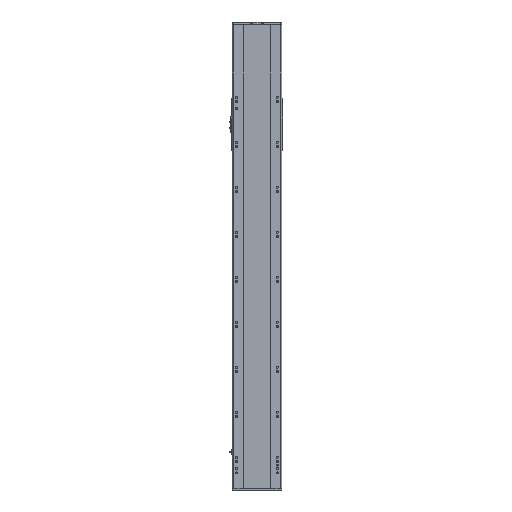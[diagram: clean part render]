
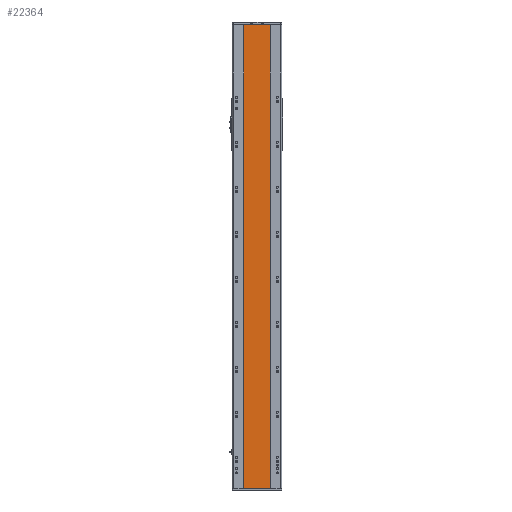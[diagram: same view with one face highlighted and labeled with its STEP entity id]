
A CAD part, front view. The second image highlights one B-rep face of the part: STEP entity #22364.
In plain terms, the highlighted planar face has unit normal (0, -1, 0).
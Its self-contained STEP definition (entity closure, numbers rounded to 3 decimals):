
#713 = VECTOR ( 'NONE', #10466, 1000. ) ;
#1057 = VECTOR ( 'NONE', #2856, 1000. ) ;
#1539 = PLANE ( 'NONE',  #30347 ) ;
#2856 = DIRECTION ( 'NONE',  ( 1., 0., 0. ) ) ;
#3855 = VERTEX_POINT ( 'NONE', #32789 ) ;
#5178 = DIRECTION ( 'NONE',  ( -1., 0., 0. ) ) ;
#6213 = EDGE_CURVE ( 'NONE', #32578, #3855, #26624, .T. ) ;
#7823 = CARTESIAN_POINT ( 'NONE',  ( -59., 1., 1030.5 ) ) ;
#8097 = CARTESIAN_POINT ( 'NONE',  ( -59., 1., -1030.5 ) ) ;
#10301 = EDGE_CURVE ( 'NONE', #3855, #25581, #25520, .T. ) ;
#10320 = LINE ( 'NONE', #12842, #1057 ) ;
#10466 = DIRECTION ( 'NONE',  ( 1., 0., 0. ) ) ;
#11660 = DIRECTION ( 'NONE',  ( 0., 0., -1. ) ) ;
#12842 = CARTESIAN_POINT ( 'NONE',  ( -59., 1., -1030.5 ) ) ;
#13739 = VERTEX_POINT ( 'NONE', #8097 ) ;
#15208 = LINE ( 'NONE', #21980, #29822 ) ;
#17055 = CARTESIAN_POINT ( 'NONE',  ( 59., 1., -1030.5 ) ) ;
#17202 = VECTOR ( 'NONE', #33644, 1000. ) ;
#20255 = EDGE_LOOP ( 'NONE', ( #28084, #40563, #22959, #39485 ) ) ;
#20627 = EDGE_CURVE ( 'NONE', #13739, #25581, #10320, .T. ) ;
#20688 = DIRECTION ( 'NONE',  ( 0., 1., 0. ) ) ;
#21980 = CARTESIAN_POINT ( 'NONE',  ( -59., 1., 1030.5 ) ) ;
#22364 = ADVANCED_FACE ( 'NONE', ( #22529 ), #1539, .F. ) ;
#22529 = FACE_OUTER_BOUND ( 'NONE', #20255, .T. ) ;
#22959 = ORIENTED_EDGE ( 'NONE', *, *, #6213, .F. ) ;
#25188 = CARTESIAN_POINT ( 'NONE',  ( -59., 1., 1030.5 ) ) ;
#25520 = LINE ( 'NONE', #39837, #17202 ) ;
#25581 = VERTEX_POINT ( 'NONE', #17055 ) ;
#26624 = LINE ( 'NONE', #32464, #713 ) ;
#28084 = ORIENTED_EDGE ( 'NONE', *, *, #20627, .T. ) ;
#29248 = EDGE_CURVE ( 'NONE', #32578, #13739, #15208, .T. ) ;
#29822 = VECTOR ( 'NONE', #11660, 1000. ) ;
#30347 = AXIS2_PLACEMENT_3D ( 'NONE', #7823, #20688, #5178 ) ;
#32464 = CARTESIAN_POINT ( 'NONE',  ( -59., 1., 1030.5 ) ) ;
#32578 = VERTEX_POINT ( 'NONE', #25188 ) ;
#32789 = CARTESIAN_POINT ( 'NONE',  ( 59., 1., 1030.5 ) ) ;
#33644 = DIRECTION ( 'NONE',  ( 0., 0., -1. ) ) ;
#39485 = ORIENTED_EDGE ( 'NONE', *, *, #29248, .T. ) ;
#39837 = CARTESIAN_POINT ( 'NONE',  ( 59., 1., 1030.5 ) ) ;
#40563 = ORIENTED_EDGE ( 'NONE', *, *, #10301, .F. ) ;
